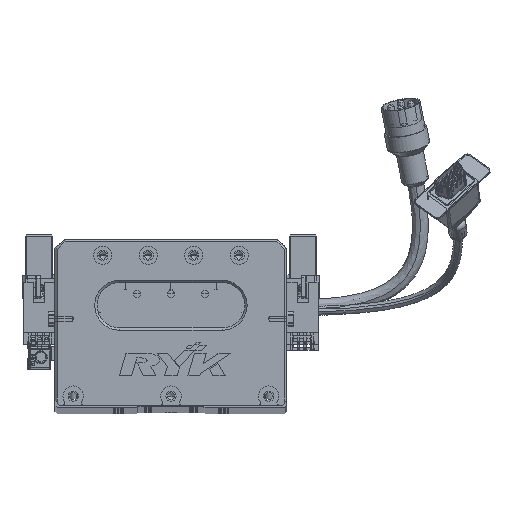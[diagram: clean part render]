
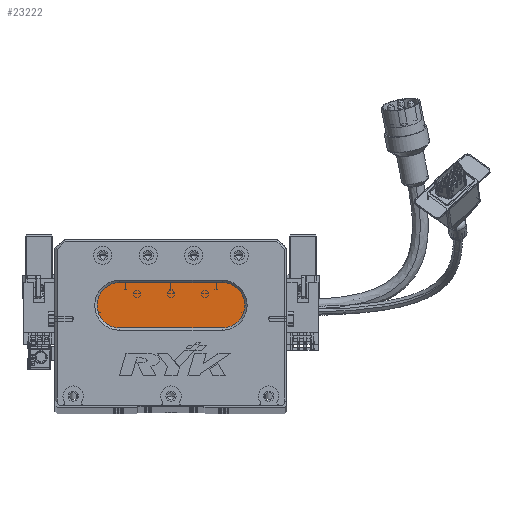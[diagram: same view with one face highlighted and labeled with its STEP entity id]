
A CAD part, top view. The second image highlights one B-rep face of the part: STEP entity #23222.
In plain terms, the highlighted planar face has unit normal (0, 0, 1) as drawn and (0, 0, -1) by its records, which use the part's own axes.
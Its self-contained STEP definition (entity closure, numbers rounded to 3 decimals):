
#1628 = CIRCLE ( 'NONE', #36079, 10. ) ;
#2046 = DIRECTION ( 'NONE',  ( -1., 0., 0. ) ) ;
#4103 = AXIS2_PLACEMENT_3D ( 'NONE', #75239, #75487, #17290 ) ;
#8296 = CARTESIAN_POINT ( 'NONE',  ( 73.5, 54., 13. ) ) ;
#8609 = VECTOR ( 'NONE', #49004, 1000. ) ;
#9110 = FACE_OUTER_BOUND ( 'NONE', #39924, .T. ) ;
#9689 = CIRCLE ( 'NONE', #4103, 10. ) ;
#11189 = CARTESIAN_POINT ( 'NONE',  ( 28.5, 44., 13. ) ) ;
#12023 = CARTESIAN_POINT ( 'NONE',  ( 28.5, 54., 13. ) ) ;
#14038 = VERTEX_POINT ( 'NONE', #21528 ) ;
#17057 = DIRECTION ( 'NONE',  ( 0., 0., -1. ) ) ;
#17290 = DIRECTION ( 'NONE',  ( -1., 0., 0. ) ) ;
#18089 = VERTEX_POINT ( 'NONE', #59394 ) ;
#18312 = CARTESIAN_POINT ( 'NONE',  ( 28.5, 44., 13. ) ) ;
#21528 = CARTESIAN_POINT ( 'NONE',  ( 73.5, 54., 13. ) ) ;
#21948 = AXIS2_PLACEMENT_3D ( 'NONE', #52482, #68797, #74882 ) ;
#23222 = ADVANCED_FACE ( 'NONE', ( #9110 ), #62921, .T. ) ;
#23918 = EDGE_CURVE ( 'NONE', #30540, #18089, #1628, .T. ) ;
#25106 = ORIENTED_EDGE ( 'NONE', *, *, #68464, .T. ) ;
#25216 = CARTESIAN_POINT ( 'NONE',  ( 73.5, 34., 13. ) ) ;
#26652 = CARTESIAN_POINT ( 'NONE',  ( 28.5, 34., 13. ) ) ;
#30270 = VECTOR ( 'NONE', #2046, 1000. ) ;
#30540 = VERTEX_POINT ( 'NONE', #26652 ) ;
#32473 = ORIENTED_EDGE ( 'NONE', *, *, #63404, .T. ) ;
#32661 = CARTESIAN_POINT ( 'NONE',  ( 73.5, 34., 13. ) ) ;
#36079 = AXIS2_PLACEMENT_3D ( 'NONE', #11189, #17057, #57728 ) ;
#37271 = VERTEX_POINT ( 'NONE', #12023 ) ;
#39511 = LINE ( 'NONE', #8296, #8609 ) ;
#39924 = EDGE_LOOP ( 'NONE', ( #46153, #56251, #65265, #32473, #25106 ) ) ;
#41945 = DIRECTION ( 'NONE',  ( -1., 0., 0. ) ) ;
#43961 = EDGE_CURVE ( 'NONE', #14038, #57740, #9689, .T. ) ;
#43989 = LINE ( 'NONE', #25216, #30270 ) ;
#46153 = ORIENTED_EDGE ( 'NONE', *, *, #43961, .T. ) ;
#49004 = DIRECTION ( 'NONE',  ( 1., 0., 0. ) ) ;
#52158 = CIRCLE ( 'NONE', #55336, 10. ) ;
#52482 = CARTESIAN_POINT ( 'NONE',  ( 73.5, 44., 13. ) ) ;
#52896 = DIRECTION ( 'NONE',  ( 0., 0., -1. ) ) ;
#55336 = AXIS2_PLACEMENT_3D ( 'NONE', #18312, #52896, #41945 ) ;
#56251 = ORIENTED_EDGE ( 'NONE', *, *, #58175, .T. ) ;
#57728 = DIRECTION ( 'NONE',  ( -1., 0., 0. ) ) ;
#57740 = VERTEX_POINT ( 'NONE', #32661 ) ;
#58175 = EDGE_CURVE ( 'NONE', #57740, #30540, #43989, .T. ) ;
#59394 = CARTESIAN_POINT ( 'NONE',  ( 18.5, 44., 13. ) ) ;
#62921 = PLANE ( 'NONE',  #21948 ) ;
#63404 = EDGE_CURVE ( 'NONE', #18089, #37271, #52158, .T. ) ;
#65265 = ORIENTED_EDGE ( 'NONE', *, *, #23918, .T. ) ;
#68464 = EDGE_CURVE ( 'NONE', #37271, #14038, #39511, .T. ) ;
#68797 = DIRECTION ( 'NONE',  ( 0., 0., -1. ) ) ;
#74882 = DIRECTION ( 'NONE',  ( -1., 0., 0. ) ) ;
#75239 = CARTESIAN_POINT ( 'NONE',  ( 73.5, 44., 13. ) ) ;
#75487 = DIRECTION ( 'NONE',  ( 0., 0., -1. ) ) ;
